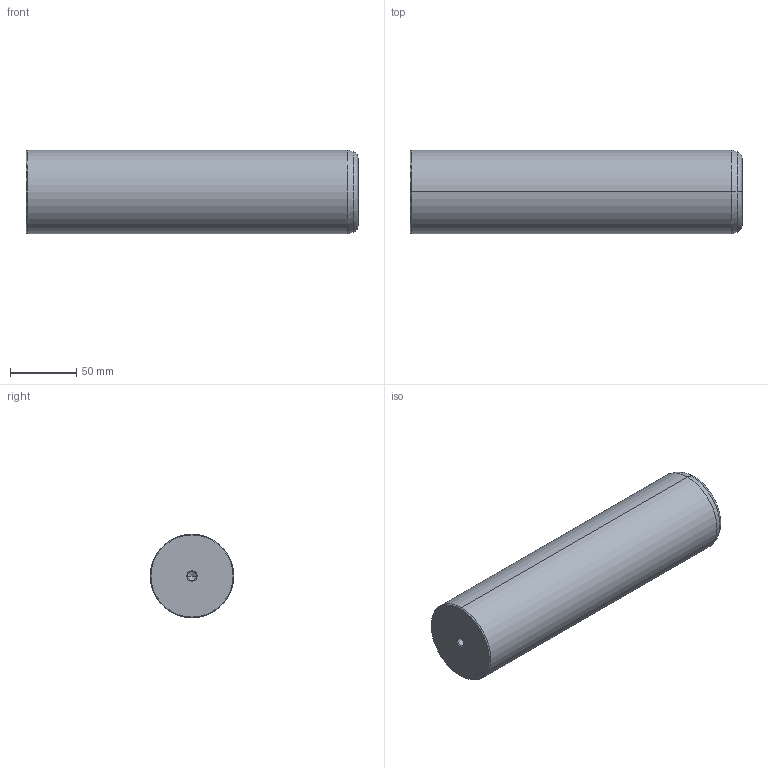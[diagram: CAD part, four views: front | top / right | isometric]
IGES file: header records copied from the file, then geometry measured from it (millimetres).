
Start section: START RECORD GO HERE.
Global section: file name: 720-63x250.igs; native system: DASSAULT SYSTEMES CATIA V5 R20 - www.3ds.com; preprocessor: CATIA Version 5 Release 20 ; author: Utente; organization: NB04-ASUS; date: 20201230.222958; units: millimetre
Bounding box: 250 x 63 x 63 mm (x, y, z)
Surface area: 56002.7 mm2 (no closed solid volume)
Topology: 0 solids, 0 shells, 22 faces, 108 edges, 104 vertices
Faces by surface type: revolution 20, plane 2
